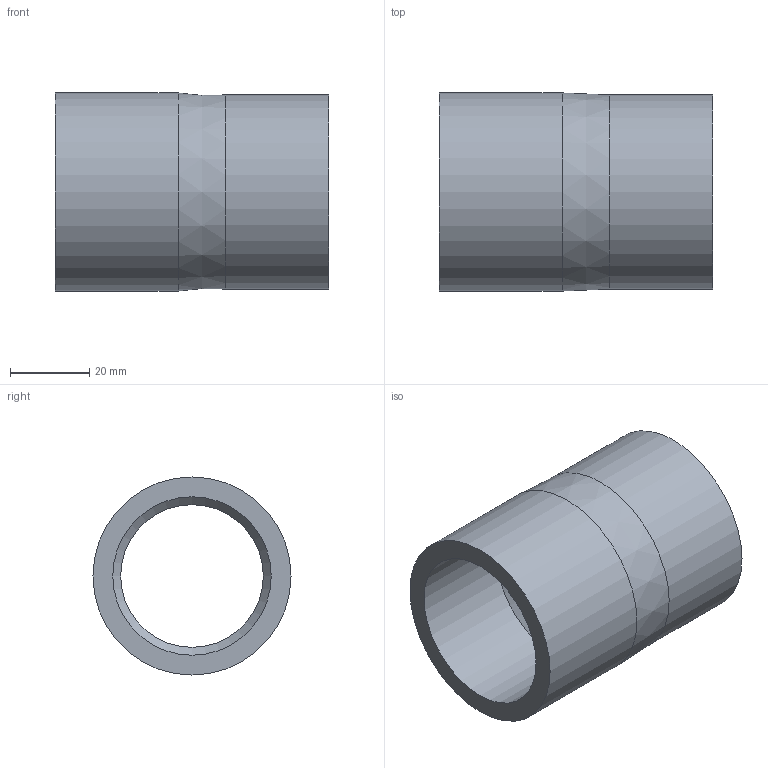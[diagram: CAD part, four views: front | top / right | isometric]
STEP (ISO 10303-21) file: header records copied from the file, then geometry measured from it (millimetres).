
FILE_DESCRIPTION(/* description */ ('PLASSON REDUCING SOCKET M.F.50(40)40 CEMENTED'),/* implementation_level */ '2;1');
FILE_NAME(/* name */ 'C:\Dropbox\KIMPROJECTS-Inventor\99-16-3568-Processing\PVC Catalog 2017\050200\050200050040.ipt.stp',/* time_stamp */ '2017-12-07T15:52:35+02:00',/* author */ ('KIM'),/* organization */ (''),/* preprocessor_version */ 'ST-DEVELOPER v15.6',/* originating_system */ 'Autodesk Inventor 2015',/* authorisation */ '');
FILE_SCHEMA (('AUTOMOTIVE_DESIGN { 1 0 10303 214 3 1 1 }'));
Length unit declared in the file: millimetre
Products named in the file (1): 050200050040
Bounding box: 69 x 50 x 50 mm (x, y, z)
Volume: 50107.9 mm3; surface area: 20882.9 mm2
Topology: 1 solids, 1 shells, 10 faces, 17 edges, 10 vertices
Faces by surface type: cylinder 5, plane 3, cone 2
Full cylindrical faces by diameter (mm): 36 x1, 40 x2, 49 x1, 50 x1
Entity records: 232 total; most frequent: DIRECTION 42, CARTESIAN_POINT 31, AXIS2_PLACEMENT_3D 21, EDGE_LOOP 20, ORIENTED_EDGE 20, FACE_BOUND 10, FACE_OUTER_BOUND 10, CIRCLE 10
